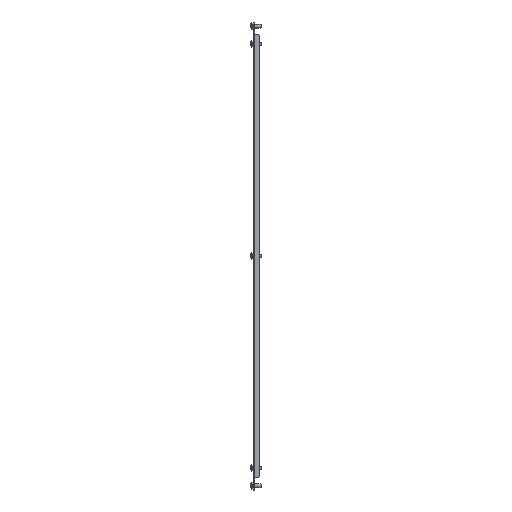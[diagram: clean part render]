
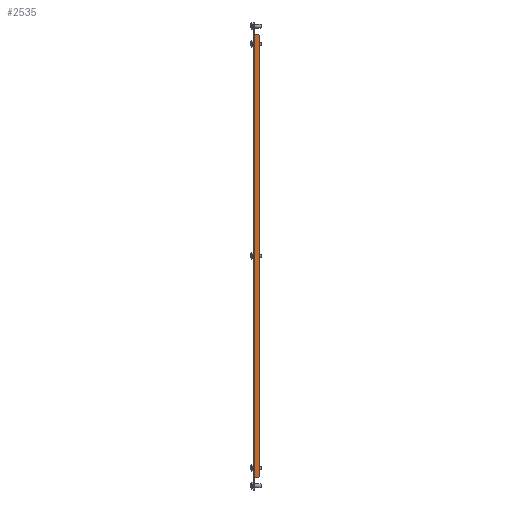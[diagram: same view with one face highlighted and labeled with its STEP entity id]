
A CAD part, left-side view. The second image highlights one B-rep face of the part: STEP entity #2535.
In plain terms, the highlighted planar face has unit normal (-1, 0, 0) as drawn and (1, 0, 0) by its records, which use the part's own axes.
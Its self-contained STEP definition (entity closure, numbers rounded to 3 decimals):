
#37 = DIRECTION ( 'NONE',  ( -1., 0., 0. ) ) ;
#217 = EDGE_CURVE ( 'NONE', #970, #348, #226, .T. ) ;
#226 = LINE ( 'NONE', #3330, #2568 ) ;
#269 = ORIENTED_EDGE ( 'NONE', *, *, #1672, .F. ) ;
#348 = VERTEX_POINT ( 'NONE', #1158 ) ;
#349 = CARTESIAN_POINT ( 'NONE',  ( 734., 313., -2.1 ) ) ;
#528 = EDGE_CURVE ( 'NONE', #2879, #1858, #3508, .T. ) ;
#650 = DIRECTION ( 'NONE',  ( 0., 1., 0. ) ) ;
#700 = VECTOR ( 'NONE', #1432, 1000. ) ;
#779 = LINE ( 'NONE', #1918, #2836 ) ;
#791 = DIRECTION ( 'NONE',  ( 0., 0., -1. ) ) ;
#864 = EDGE_CURVE ( 'NONE', #2910, #2091, #2250, .T. ) ;
#943 = DIRECTION ( 'NONE',  ( 0., 0., 1. ) ) ;
#970 = VERTEX_POINT ( 'NONE', #3302 ) ;
#1114 = EDGE_CURVE ( 'NONE', #348, #3234, #779, .T. ) ;
#1158 = CARTESIAN_POINT ( 'NONE',  ( 734., -313., -8. ) ) ;
#1190 = LINE ( 'NONE', #2342, #700 ) ;
#1205 = ORIENTED_EDGE ( 'NONE', *, *, #1475, .T. ) ;
#1230 = ORIENTED_EDGE ( 'NONE', *, *, #1340, .T. ) ;
#1328 = PLANE ( 'NONE',  #1791 ) ;
#1340 = EDGE_CURVE ( 'NONE', #1858, #2545, #1716, .T. ) ;
#1422 = CARTESIAN_POINT ( 'NONE',  ( 734., 312., -9. ) ) ;
#1432 = DIRECTION ( 'NONE',  ( 0., 0., 1. ) ) ;
#1466 = EDGE_LOOP ( 'NONE', ( #2377, #2759, #1230, #1205, #2538, #269, #3103, #3216 ) ) ;
#1475 = EDGE_CURVE ( 'NONE', #2545, #2910, #1190, .T. ) ;
#1672 = EDGE_CURVE ( 'NONE', #970, #2091, #2086, .T. ) ;
#1716 = LINE ( 'NONE', #3455, #1841 ) ;
#1717 = CARTESIAN_POINT ( 'NONE',  ( 734., 313., 0. ) ) ;
#1742 = VECTOR ( 'NONE', #650, 1000. ) ;
#1791 = AXIS2_PLACEMENT_3D ( 'NONE', #2791, #37, #2036 ) ;
#1841 = VECTOR ( 'NONE', #943, 1000. ) ;
#1843 = CARTESIAN_POINT ( 'NONE',  ( 734., 313., -8. ) ) ;
#1858 = VERTEX_POINT ( 'NONE', #3572 ) ;
#1892 = VECTOR ( 'NONE', #3272, 1000. ) ;
#1918 = CARTESIAN_POINT ( 'NONE',  ( 734., -312., -9. ) ) ;
#1968 = CARTESIAN_POINT ( 'NONE',  ( 734., -312., -9. ) ) ;
#2036 = DIRECTION ( 'NONE',  ( 0., 0., 1. ) ) ;
#2060 = CARTESIAN_POINT ( 'NONE',  ( 734., 0., -9. ) ) ;
#2086 = LINE ( 'NONE', #3211, #1892 ) ;
#2091 = VERTEX_POINT ( 'NONE', #3022 ) ;
#2250 = LINE ( 'NONE', #3381, #2751 ) ;
#2257 = DIRECTION ( 'NONE',  ( 0., 0.707, -0.707 ) ) ;
#2258 = LINE ( 'NONE', #2060, #1742 ) ;
#2342 = CARTESIAN_POINT ( 'NONE',  ( 734., 313., -2.1 ) ) ;
#2377 = ORIENTED_EDGE ( 'NONE', *, *, #2961, .T. ) ;
#2535 = ADVANCED_FACE ( 'NONE', ( #2732 ), #1328, .F. ) ;
#2538 = ORIENTED_EDGE ( 'NONE', *, *, #864, .T. ) ;
#2545 = VERTEX_POINT ( 'NONE', #349 ) ;
#2568 = VECTOR ( 'NONE', #791, 1000. ) ;
#2640 = DIRECTION ( 'NONE',  ( 0., -1., 0. ) ) ;
#2723 = VECTOR ( 'NONE', #3487, 1000. ) ;
#2732 = FACE_OUTER_BOUND ( 'NONE', #1466, .T. ) ;
#2751 = VECTOR ( 'NONE', #2640, 1000. ) ;
#2759 = ORIENTED_EDGE ( 'NONE', *, *, #528, .T. ) ;
#2791 = CARTESIAN_POINT ( 'NONE',  ( 734., 0., 0. ) ) ;
#2836 = VECTOR ( 'NONE', #2257, 1000. ) ;
#2879 = VERTEX_POINT ( 'NONE', #1422 ) ;
#2910 = VERTEX_POINT ( 'NONE', #1717 ) ;
#2961 = EDGE_CURVE ( 'NONE', #3234, #2879, #2258, .T. ) ;
#3022 = CARTESIAN_POINT ( 'NONE',  ( 734., -313., 0. ) ) ;
#3103 = ORIENTED_EDGE ( 'NONE', *, *, #217, .T. ) ;
#3211 = CARTESIAN_POINT ( 'NONE',  ( 734., -313., 0. ) ) ;
#3216 = ORIENTED_EDGE ( 'NONE', *, *, #1114, .T. ) ;
#3234 = VERTEX_POINT ( 'NONE', #1968 ) ;
#3272 = DIRECTION ( 'NONE',  ( 0., 0., 1. ) ) ;
#3302 = CARTESIAN_POINT ( 'NONE',  ( 734., -313., -2.1 ) ) ;
#3330 = CARTESIAN_POINT ( 'NONE',  ( 734., -313., 0. ) ) ;
#3381 = CARTESIAN_POINT ( 'NONE',  ( 734., 0., 0. ) ) ;
#3455 = CARTESIAN_POINT ( 'NONE',  ( 734., 313., 0. ) ) ;
#3487 = DIRECTION ( 'NONE',  ( 0., 0.707, 0.707 ) ) ;
#3508 = LINE ( 'NONE', #1843, #2723 ) ;
#3572 = CARTESIAN_POINT ( 'NONE',  ( 734., 313., -8. ) ) ;
